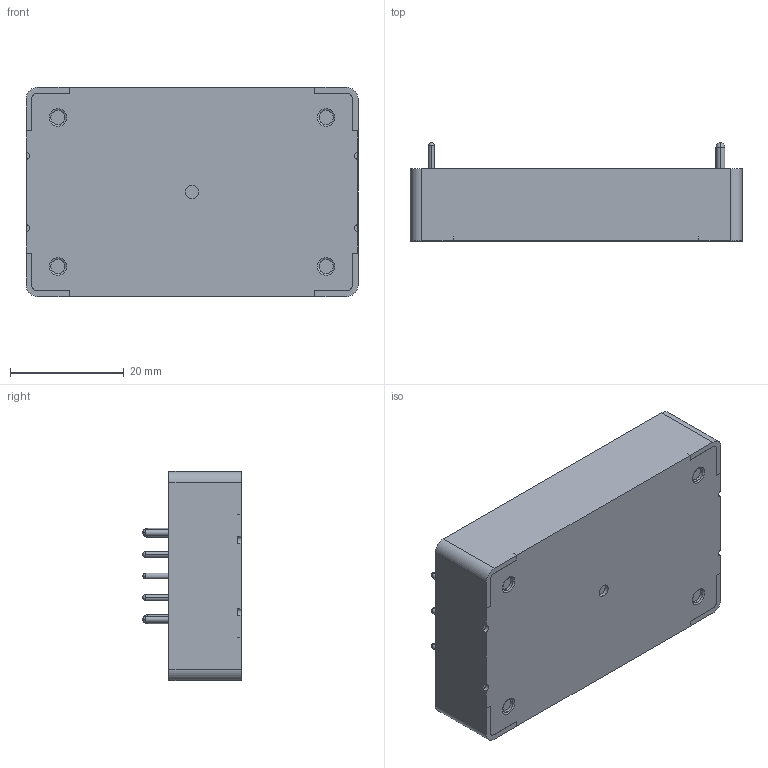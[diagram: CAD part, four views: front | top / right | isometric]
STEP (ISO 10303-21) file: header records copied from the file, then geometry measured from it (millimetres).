
FILE_DESCRIPTION (( 'STEP AP203' ), '1' );
FILE_NAME ('QB_wihout_Pmbus_Threaded.STEP', '2024-10-23T10:54:26', ( '' ), ( '' ), 'SwSTEP 2.0', 'SolidWorks 2021', '' );
FILE_SCHEMA (( 'CONFIG_CONTROL_DESIGN' ));
Length unit declared in the file: millimetre
Products named in the file (1): QB_wihout_Pmbus_Threaded
Bounding box: 58.4 x 17.3 x 36.8 mm (x, y, z)
Volume: 27264.6 mm3; surface area: 6950.7 mm2
Topology: 1 solids, 5 shells, 145 faces, 374 edges, 236 vertices
Faces by surface type: plane 63, cylinder 58, sphere 16, cone 8
Entity records: 4381 total; most frequent: DIRECTION 790, CARTESIAN_POINT 732, ORIENTED_EDGE 708, EDGE_CURVE 354, AXIS2_PLACEMENT_3D 290, VERTEX_POINT 232, LINE 210, VECTOR 210
